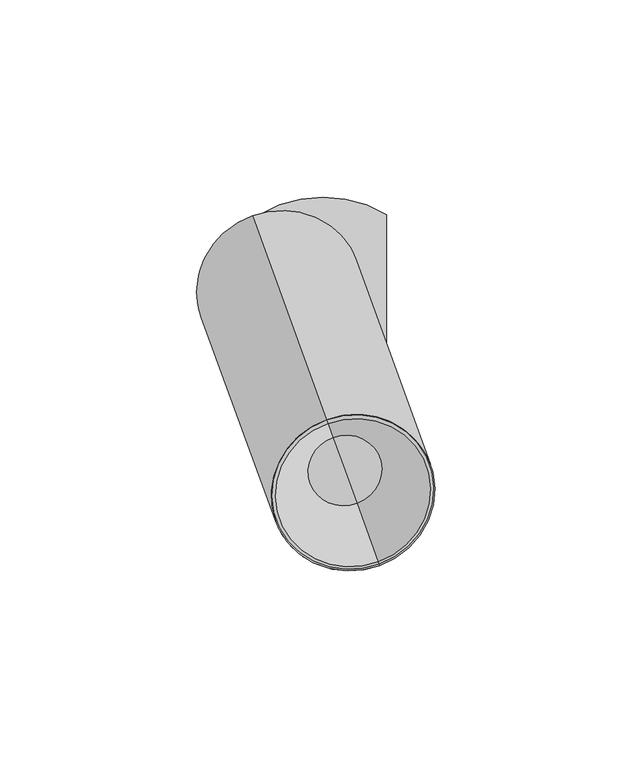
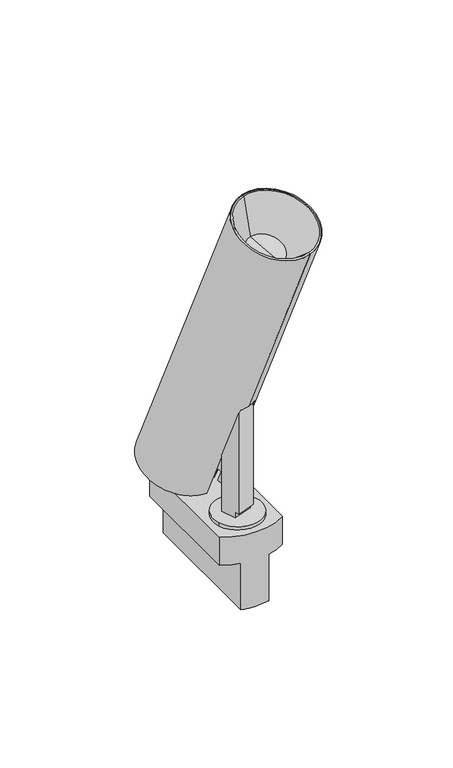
"""IFC4 building model written with IfcOpenShell, lengths in millimetres: light fixture geometry, PIPES T XS : 490lm 7,8W 930 38°."""

from ifc_helpers import new_model, si_unit, point, frame, frame_2d, origin, origin_2d, place, context, project, spatial, polyline, circle_curve, trimmed, segment, composite_curve, outline, extrude, source, transform, mapped, element, save
from ifc_brep_helpers import plane_surface, cylinder_surface, revolved_surface, advanced_brep


def light_fixture_19428bb1(model_context):
    return source(origin(), model_context, "Body", "SolidModel", [
        extrude(outline(composite_curve([segment(polyline([(39.7303383, 0.0), (39.7303383, -8.0), (36.7303383, -8.0), (36.7303383, -10.0), (-21.31827, -10.0), (-21.31827, -2.0000001)]), True, "CONTINUOUS"), segment(trimmed(circle_curve(frame_2d((-15.691322, -2.0000001)), 5.626948), [point((-21.31827, -2.0000001))], [point((-15.691322, 3.626948))], False, "CARTESIAN"), True, "CONTINUOUS"), segment(polyline([(-15.691322, 3.626948), (-9.8735653, 3.626948)]), True, "CONTINUOUS"), segment(trimmed(circle_curve(frame_2d((-17.7182036, -2.2388679)), 9.7952104), [point((-9.8735653, 3.626948))], [point((-8.1822916, 0.0))], False, "CARTESIAN"), True, "CONTINUOUS"), segment(polyline([(-8.1822916, 0.0), (39.7303383, 0.0)]), True, "CONTINUOUS")], self_intersect=False)), frame((-6.4085638, 2.9883624, 56.5303383), z_axis=(0.9396926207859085, 0.3420201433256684, 0.0), x_axis=(0.0, 0.0, -1.0)), (0.0, 0.0, 1.0), 10.0),
        extrude(outline(composite_curve([segment(trimmed(circle_curve(origin_2d(), 12.5), [point((11.7461578, 4.2752518))], [point((-11.7461578, -4.2752518))], False, "CARTESIAN"), True, "CONTINUOUS"), segment(trimmed(circle_curve(origin_2d(), 12.5), [point((-11.7461578, -4.2752518))], [point((11.7461578, 4.2752518))], False, "CARTESIAN"), True, "CONTINUOUS")], self_intersect=False)), frame((0.0, 0.0, 15.0), z_axis=(0.0, 0.0, 1.0), x_axis=(1.0, 0.0, 0.0)), (0.0, 0.0, 1.0), 1.8),
        advanced_brep(
        [(-7.1153658, -15.2862846, -25.0), (-7.1153658, 53.3498174, -25.0), (7.1153658, 53.3498174, -25.0), (7.1153658, -15.2862846, -25.0), (-16.1153658, 49.7317664, 15.0), (-16.1153658, -11.6682336, 15.0), (16.1153658, -11.6682336, 15.0), (16.1153658, 49.7317664, 15.0), (-16.1153658, 49.7317664, 0.0), (-16.1153658, -11.6682336, 0.0), (-7.1153658, -15.2862846, 0.0), (7.1153658, -15.2862846, 0.0), (16.1153658, -11.6682336, 0.0), (16.1153658, 49.7317664, 0.0), (7.1153658, 53.3498174, 0.0), (-7.1153658, 53.3498174, 0.0)],
        [
            (0, 1),
            (1, 2, circle_curve(frame((0.0, 22.6472542, -25.0), z_axis=(0.0, 0.0, -1.0), x_axis=(1.0, 0.0, 0.0)), 31.5162786)),
            (2, 3),
            (3, 0, circle_curve(frame((0.0, 15.4162786, -25.0), z_axis=(0.0, 0.0, -1.0), x_axis=(1.0, 0.0, 0.0)), 31.5162786)),
            (4, 5),
            (5, 6, circle_curve(frame((0.0, 15.4162786, 15.0), z_axis=(0.0, 0.0, 1.0), x_axis=(1.0, 0.0, 0.0)), 31.5162786)),
            (6, 7),
            (7, 4, circle_curve(frame((0.0, 22.6472542, 15.0), z_axis=(0.0, 0.0, 1.0), x_axis=(1.0, 0.0, 0.0)), 31.5162786)),
            (4, 8),
            (8, 9),
            (9, 5),
            (9, 10, circle_curve(frame((0.0, 15.4162786, 0.0), z_axis=(0.0, 0.0, 1.0), x_axis=(1.0, 0.0, 0.0)), 31.5162786)),
            (10, 0),
            (3, 11),
            (11, 12, circle_curve(frame((0.0, 15.4162786, 0.0), z_axis=(0.0, 0.0, 1.0), x_axis=(1.0, 0.0, 0.0)), 31.5162786)),
            (12, 6),
            (12, 13),
            (13, 7),
            (13, 14, circle_curve(frame((0.0, 22.6472542, 0.0), z_axis=(0.0, 0.0, 1.0), x_axis=(1.0, 0.0, 0.0)), 31.5162786)),
            (14, 2),
            (1, 15),
            (15, 8, circle_curve(frame((0.0, 22.6472542, 0.0), z_axis=(0.0, 0.0, 1.0), x_axis=(1.0, 0.0, 0.0)), 31.5162786)),
            (15, 10),
            (11, 14),
        ],
        [
            plane_surface(frame((-16.1153658, -11.6883244, -25.0), z_axis=(0.0, 0.0, -1.0), x_axis=(0.0, 1.0, 0.0))),
            plane_surface(frame((-16.1153658, -11.6883244, 15.0), z_axis=(0.0, 0.0, 1.0), x_axis=(0.0, -1.0, 0.0))),
            plane_surface(frame((-16.1153658, 49.7317664, 15.0), z_axis=(-1.0, 0.0, 0.0), x_axis=(0.0, 0.0, -1.0))),
            cylinder_surface(frame((0.0, 15.4162786, -25.0), z_axis=(0.0, 0.0, 1.0), x_axis=(1.0, 0.0, 0.0)), 31.5162786),
            plane_surface(frame((16.1153658, -11.6682336, 15.0), z_axis=(1.0, 0.0, 0.0), x_axis=(0.0, 0.0, -1.0))),
            cylinder_surface(frame((0.0, 22.6472542, -25.0), z_axis=(0.0, 0.0, 1.0), x_axis=(1.0, 0.0, 0.0)), 31.5162786),
            plane_surface(frame((-7.1153658, 58.6979838, 0.0), z_axis=(0.0, 0.0, -1.0), x_axis=(-1.0, 0.0, 0.0))),
            plane_surface(frame((-7.1153658, -21.3020162, 0.0), z_axis=(-1.0, 0.0, 0.0), x_axis=(0.0, 0.0, -1.0))),
            plane_surface(frame((7.1153658, -11.6883244, 0.0), z_axis=(0.0, 0.0, -1.0), x_axis=(0.0, -1.0, 0.0))),
            plane_surface(frame((7.1153658, 58.6979838, 0.0), z_axis=(1.0, 0.0, 0.0), x_axis=(0.0, 0.0, -1.0))),
        ],
        [
            (0, [[1, 2, 3, 4]]),
            (1, [[5, 6, 7, 8]]),
            (2, [[-5, 9, 10, 11]]),
            (3, [[-6, -11, 12, 13, -4, 14, 15, 16]]),
            (4, [[-7, -16, 17, 18]]),
            (5, [[-8, -18, 19, 20, -2, 21, 22, -9]]),
            (6, [[23, -12, -10, -22]]),
            (7, [[-23, -21, -1, -13]]),
            (8, [[24, -19, -17, -15]]),
            (9, [[-24, -14, -3, -20]]),
        ],
    ),
        advanced_brep(
        [(3.676383, 4.5182428, 79.4085638), (-2.2894837, 20.9093268, 31.4842402), (0.0664302, 14.4365066, 28.977129), (-0.6354365, 16.3648694, 23.3389732), (0.0284909, 14.540744, 22.6324365), (6.6962242, -3.7787029, 76.1949159), (-5.7205432, 1.0980414, 79.4085638), (-2.700702, -7.1989044, 76.1949159), (-9.3684353, 11.1205425, 22.6324365), (-10.0323627, 12.944668, 23.3389732), (-9.330496, 11.0163052, 28.977129), (-11.6864099, 17.4891254, 31.4842402), (-6.9879468, 19.1992261, 31.4842402), (2.1918579, -6.0220801, 75.9883624), (14.3575469, -39.4470358, 173.7163949), (0.8590071, -2.3601025, 188.081241), (-17.9744153, 49.3843, 36.790729), (-17.3316276, 47.6182556, 36.1066887), (-16.629761, 45.6898928, 41.7448445), (-10.5232787, 28.9124706, 35.2464617), (2.23025, -6.1275616, 166.9347059), (8.6581261, -23.788006, 160.094303), (5.4441881, -14.9577838, 163.5145045)],
        [
            (0, 1),
            (1, 2),
            (2, 3),
            (3, 4),
            (4, 5),
            (5, 0),
            (6, 7),
            (7, 8),
            (8, 9),
            (9, 10),
            (10, 11),
            (11, 6),
            (0, 6),
            (11, 12),
            (12, 1),
            (5, 13, circle_curve(frame((-4.557412, 12.5213865, 83.1707854), z_axis=(-0.11697777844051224, 0.32139380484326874, -0.9396926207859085), x_axis=(0.3213938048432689, -0.8830222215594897, -0.3420201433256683)), 21.0)),
            (13, 7, circle_curve(frame((-4.557412, 12.5213865, 83.1707854), z_axis=(-0.11697777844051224, 0.32139380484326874, -0.9396926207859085), x_axis=(0.3213938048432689, -0.8830222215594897, -0.3420201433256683)), 21.0)),
            (14, 15, circle_curve(frame((7.608277, -20.9035692, 180.898818), z_axis=(-0.11697777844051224, 0.32139380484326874, -0.9396926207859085), x_axis=(0.3213938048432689, -0.8830222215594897, -0.3420201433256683)), 21.0)),
            (15, 16),
            (16, 8, circle_curve(frame((-11.2251454, 30.8408334, 29.608306), z_axis=(0.11697777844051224, -0.32139380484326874, 0.9396926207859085), x_axis=(0.3213938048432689, -0.8830222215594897, -0.3420201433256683)), 21.0)),
            (13, 14),
            (15, 14, circle_curve(frame((7.608277, -20.9035692, 180.898818), z_axis=(-0.11697777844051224, 0.32139380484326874, -0.9396926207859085), x_axis=(0.3213938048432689, -0.8830222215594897, -0.3420201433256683)), 21.0)),
            (4, 16, circle_curve(frame((-11.2251454, 30.8408334, 29.608306), z_axis=(0.11697777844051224, -0.32139380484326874, 0.9396926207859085), x_axis=(0.3213938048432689, -0.8830222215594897, -0.3420201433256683)), 21.0)),
            (16, 17),
            (17, 9, circle_curve(frame((-11.2251454, 30.8408334, 29.608306), z_axis=(0.11697777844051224, -0.32139380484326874, 0.9396926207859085), x_axis=(0.3213938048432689, -0.8830222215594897, -0.3420201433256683)), 19.0)),
            (3, 17, circle_curve(frame((-11.2251454, 30.8408334, 29.608306), z_axis=(0.11697777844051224, -0.32139380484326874, 0.9396926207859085), x_axis=(0.3213938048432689, -0.8830222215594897, -0.3420201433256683)), 19.0)),
            (17, 18),
            (18, 10, circle_curve(frame((-10.5232787, 28.9124706, 35.2464617), z_axis=(0.11697777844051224, -0.32139380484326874, 0.9396926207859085), x_axis=(0.3213938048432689, -0.8830222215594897, -0.3420201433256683)), 19.0)),
            (2, 18, circle_curve(frame((-10.5232787, 28.9124706, 35.2464617), z_axis=(0.11697777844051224, -0.32139380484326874, 0.9396926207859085), x_axis=(0.3213938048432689, -0.8830222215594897, -0.3420201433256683)), 19.0)),
            (18, 19),
            (19, 12),
            (20, 21, circle_curve(frame((5.4441881, -14.9577838, 163.5145045), z_axis=(0.11697777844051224, -0.32139380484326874, 0.9396926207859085), x_axis=(0.3213938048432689, -0.8830222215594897, -0.3420201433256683)), 10.0)),
            (21, 22),
            (22, 20),
            (21, 20, circle_curve(frame((5.4441881, -14.9577838, 163.5145045), z_axis=(0.11697777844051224, -0.32139380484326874, 0.9396926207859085), x_axis=(0.3213938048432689, -0.8830222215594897, -0.3420201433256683)), 10.0)),
            (14, 21),
            (20, 15),
        ],
        [
            plane_surface(frame((3.676383, 4.5182428, 79.4085638), z_axis=(-0.9396926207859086, -0.3420201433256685, 0.0), x_axis=(0.11697777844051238, -0.32139380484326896, 0.9396926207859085))),
            plane_surface(frame((-5.7205432, 1.0980414, 79.4085638), z_axis=(0.9396926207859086, 0.3420201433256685, 0.0), x_axis=(-0.11697777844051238, 0.32139380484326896, -0.9396926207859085))),
            plane_surface(frame((-5.7205432, 1.0980414, 79.4085638), z_axis=(0.32139380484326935, -0.8830222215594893, -0.3420201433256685), x_axis=(0.9396926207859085, 0.3420201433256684, 0.0))),
            plane_surface(frame((0.7073329, -16.5624031, 72.568161), z_axis=(-0.11697777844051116, 0.32139380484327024, -0.9396926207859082), x_axis=(0.9396926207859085, 0.3420201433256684, 0.0))),
            cylinder_surface(frame((-12.2138861, 33.5573763, 21.665666), z_axis=(-0.11697777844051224, 0.32139380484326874, -0.9396926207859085), x_axis=(0.3213938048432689, -0.8830222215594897, -0.3420201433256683)), 21.0),
            plane_surface(frame((-11.2251454, 30.8408334, 29.608306), z_axis=(-0.11697777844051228, 0.32139380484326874, -0.9396926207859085), x_axis=(0.32139380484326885, -0.8830222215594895, -0.34202014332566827))),
            revolved_surface(polyline([(-5.118663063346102, 14.063411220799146, 23.10992327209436), (-4.416796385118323, 12.135048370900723, 28.748079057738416)]), (-12.2138861, 33.5573763, 21.665666), (-0.11697777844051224, 0.32139380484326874, -0.9396926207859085)),
            revolved_surface(polyline([(-5.118663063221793, 14.06341122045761, 23.109923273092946), (-4.416796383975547, 12.135048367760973, 28.74807906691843)]), (-12.2138861, 33.5573763, 21.665666), (-0.11697777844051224, 0.32139380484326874, -0.9396926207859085)),
            plane_surface(frame((-10.5232787, 28.9124706, 35.2464617), z_axis=(-0.11697777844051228, 0.32139380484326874, -0.9396926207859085), x_axis=(0.32139380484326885, -0.8830222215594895, -0.34202014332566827))),
            plane_surface(frame((5.4441881, -14.9577838, 163.5145045), z_axis=(0.11697777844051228, -0.32139380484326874, 0.9396926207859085), x_axis=(0.32139380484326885, -0.8830222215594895, -0.34202014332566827))),
            revolved_surface(polyline([(8.6581261, -23.788006, 160.094303), (14.3575469, -39.4470358, 173.7163949)]), (-12.2138861, 33.5573763, 21.665666), (-0.11697777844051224, 0.32139380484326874, -0.9396926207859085)),
        ],
        [
            (0, [[1, 2, 3, 4, 5, 6]]),
            (1, [[7, 8, 9, 10, 11, 12]]),
            (2, [[13, -12, 14, 15, -1]]),
            (3, [[-13, -6, 16, 17, -7]]),
            (4, [[18, 19, 20, -8, -17, 21]]),
            (4, [[-19, 22, -21, -16, -5, 23]]),
            (5, [[24, 25, -9, -20]]),
            (5, [[-24, -23, -4, 26]]),
            (6, [[27, 28, -10, -25]]),
            (7, [[-27, -26, -3, 29]]),
            (8, [[30, 31, -14, -11, -28]]),
            (8, [[-30, -29, -2, -15, -31]]),
            (9, [[32, 33, 34]]),
            (9, [[-33, 35, -34]]),
            (10, [[-18, 36, -32, 37]]),
            (10, [[-22, -37, -35, -36]]),
        ],
    ),
        advanced_brep(
        [(-2.7573948, 22.1949021, 27.7254697), (-2.9913504, 22.8376897, 25.8460844), (-1.3067886, 18.2093941, 24.0534112), (-1.072833, 17.5666065, 25.9327964), (-12.3882766, 19.4174882, 25.8460844), (-12.1543211, 18.7747006, 27.7254697), (-10.4697592, 14.1464051, 25.9327964), (-10.7037148, 14.7891927, 24.0534112), (-7.4558579, 20.4848013, 27.7254697), (-7.6898135, 21.127589, 25.8460844), (-10.9911898, 30.1980458, 31.4876913), (-16.4528415, 45.2038105, 37.2998596), (-16.6867971, 45.8465981, 35.4204744), (-11.2251454, 30.8408334, 29.608306)],
        [
            (0, 1),
            (1, 2),
            (2, 3),
            (3, 0),
            (4, 5),
            (5, 6),
            (6, 7),
            (7, 4),
            (0, 8),
            (8, 5),
            (4, 9),
            (9, 1),
            (10, 11),
            (11, 6, circle_curve(frame((-10.9911898, 30.1980458, 31.4876913), z_axis=(0.1169777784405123, -0.3213938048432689, 0.9396926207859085), x_axis=(0.3213938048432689, -0.8830222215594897, -0.3420201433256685)), 16.9936434)),
            (8, 10),
            (3, 11, circle_curve(frame((-10.9911898, 30.1980458, 31.4876913), z_axis=(0.1169777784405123, -0.3213938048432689, 0.9396926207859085), x_axis=(0.3213938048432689, -0.8830222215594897, -0.3420201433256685)), 16.9936434)),
            (11, 12),
            (12, 7, circle_curve(frame((-11.2251454, 30.8408334, 29.608306), z_axis=(0.1169777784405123, -0.3213938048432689, 0.9396926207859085), x_axis=(0.3213938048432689, -0.8830222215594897, -0.3420201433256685)), 16.9936434)),
            (2, 12, circle_curve(frame((-11.2251454, 30.8408334, 29.608306), z_axis=(0.1169777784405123, -0.3213938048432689, 0.9396926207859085), x_axis=(0.3213938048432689, -0.8830222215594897, -0.3420201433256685)), 16.9936434)),
            (12, 13),
            (13, 9),
        ],
        [
            plane_surface(frame((3.676383, 4.5182428, 79.4085638), z_axis=(-0.9396926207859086, -0.3420201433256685, 0.0), x_axis=(0.11697777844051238, -0.32139380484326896, 0.9396926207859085))),
            plane_surface(frame((-5.7205432, 1.0980414, 79.4085638), z_axis=(0.9396926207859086, 0.3420201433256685, 0.0), x_axis=(-0.11697777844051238, 0.32139380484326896, -0.9396926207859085))),
            plane_surface(frame((-5.7205432, 1.0980414, 79.4085638), z_axis=(0.32139380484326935, -0.8830222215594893, -0.3420201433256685), x_axis=(0.9396926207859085, 0.3420201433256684, 0.0))),
            plane_surface(frame((-10.9911898, 30.1980458, 31.4876913), z_axis=(0.11697777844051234, -0.3213938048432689, 0.9396926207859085), x_axis=(0.32139380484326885, -0.8830222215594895, -0.34202014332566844))),
            cylinder_surface(frame((4.2214918, -11.5984533, 153.6924792), z_axis=(-0.1169777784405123, 0.3213938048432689, -0.9396926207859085), x_axis=(0.3213938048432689, -0.8830222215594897, -0.3420201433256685)), 16.9936434),
            plane_surface(frame((-11.2251454, 30.8408334, 29.608306), z_axis=(-0.11697777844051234, 0.3213938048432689, -0.9396926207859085), x_axis=(0.32139380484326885, -0.8830222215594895, -0.34202014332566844))),
        ],
        [
            (0, [[1, 2, 3, 4]]),
            (1, [[5, 6, 7, 8]]),
            (2, [[-1, 9, 10, -5, 11, 12]]),
            (3, [[13, 14, -6, -10, 15]]),
            (3, [[-13, -15, -9, -4, 16]]),
            (4, [[17, 18, -7, -14]]),
            (4, [[-17, -16, -3, 19]]),
            (5, [[20, 21, -11, -8, -18]]),
            (5, [[-20, -19, -2, -12, -21]]),
        ],
    ),
        advanced_brep(
        [(2.5300443, -6.9512396, 167.6798493), (8.5922874, -23.6071156, 161.2285449), (5.5611658, -15.2791776, 164.4541971), (1.2329226, -3.387427, 187.6833284), (13.9836314, -38.4197114, 174.1143075), (0.8590071, -2.3601025, 188.081241), (14.3575469, -39.4470358, 173.7163949), (2.23025, -6.1275616, 166.9347059), (8.6581261, -23.788006, 160.094303), (5.4441881, -14.9577838, 163.5145045)],
        [
            (0, 1, circle_curve(frame((5.5611658, -15.2791776, 164.4541971), z_axis=(0.11697777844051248, -0.32139380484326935, 0.9396926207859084), x_axis=(0.3213938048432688, -0.8830222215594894, -0.34202014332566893)), 9.431176)),
            (1, 2),
            (2, 0),
            (1, 0, circle_curve(frame((5.5611658, -15.2791776, 164.4541971), z_axis=(0.11697777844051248, -0.32139380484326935, 0.9396926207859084), x_axis=(0.3213938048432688, -0.8830222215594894, -0.34202014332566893)), 9.431176)),
            (3, 4, circle_curve(frame((7.608277, -20.9035692, 180.898818), z_axis=(0.11697777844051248, -0.32139380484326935, 0.9396926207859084), x_axis=(0.3213938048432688, -0.8830222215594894, -0.34202014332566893)), 19.8365814)),
            (4, 1),
            (0, 3),
            (4, 3, circle_curve(frame((7.608277, -20.9035692, 180.898818), z_axis=(0.11697777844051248, -0.32139380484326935, 0.9396926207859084), x_axis=(0.3213938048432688, -0.8830222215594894, -0.34202014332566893)), 19.8365814)),
            (5, 6, circle_curve(frame((7.608277, -20.9035692, 180.898818), z_axis=(0.11697777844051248, -0.32139380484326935, 0.9396926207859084), x_axis=(0.3213938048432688, -0.8830222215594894, -0.34202014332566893)), 21.0)),
            (6, 4),
            (3, 5),
            (6, 5, circle_curve(frame((7.608277, -20.9035692, 180.898818), z_axis=(0.11697777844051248, -0.32139380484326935, 0.9396926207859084), x_axis=(0.3213938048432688, -0.8830222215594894, -0.34202014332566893)), 21.0)),
            (7, 8, circle_curve(frame((5.4441881, -14.9577838, 163.5145045), z_axis=(0.11697777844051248, -0.32139380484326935, 0.9396926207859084), x_axis=(0.3213938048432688, -0.8830222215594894, -0.34202014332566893)), 10.0)),
            (8, 6),
            (5, 7),
            (8, 7, circle_curve(frame((5.4441881, -14.9577838, 163.5145045), z_axis=(0.11697777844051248, -0.32139380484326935, 0.9396926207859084), x_axis=(0.3213938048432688, -0.8830222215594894, -0.34202014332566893)), 10.0)),
            (9, 8),
            (7, 9),
        ],
        [
            plane_surface(frame((5.5611658, -15.2791776, 164.4541971), z_axis=(0.1169777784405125, -0.32139380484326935, 0.9396926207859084), x_axis=(0.3213938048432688, -0.8830222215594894, -0.34202014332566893))),
            revolved_surface(polyline([(8.5922874, -23.6071156, 161.2285449), (13.9836314, -38.4197114, 174.1143075)]), (-14.5534417, 39.9852524, 2.8718136), (-0.11697777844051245, 0.3213938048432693, -0.9396926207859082)),
            plane_surface(frame((7.608277, -20.9035692, 180.898818), z_axis=(0.1169777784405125, -0.32139380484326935, 0.9396926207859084), x_axis=(0.3213938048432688, -0.8830222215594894, -0.34202014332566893))),
            revolved_surface(polyline([(14.3575469, -39.4470358, 173.7163949), (8.6581261, -23.788006, 160.094303)]), (-14.5534417, 39.9852524, 2.8718136), (-0.11697777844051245, 0.3213938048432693, -0.9396926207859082)),
            plane_surface(frame((5.4441881, -14.9577838, 163.5145045), z_axis=(-0.1169777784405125, 0.32139380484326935, -0.9396926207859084), x_axis=(0.3213938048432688, -0.8830222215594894, -0.34202014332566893))),
        ],
        [
            (0, [[1, 2, 3]]),
            (0, [[4, -3, -2]]),
            (1, [[5, 6, -1, 7]]),
            (1, [[8, -7, -4, -6]]),
            (2, [[9, 10, -5, 11]]),
            (2, [[12, -11, -8, -10]]),
            (3, [[13, 14, -9, 15]]),
            (3, [[16, -15, -12, -14]]),
            (4, [[17, -13, 18]]),
            (4, [[-18, -16, -17]]),
        ],
    ),
    ])


if __name__ == "__main__":
    model = new_model("IFC4")
    model_context = context("Model", 3, world=origin())
    ifc_project = project(units=[si_unit("LENGTHUNIT", "METRE", prefix="MILLI")], contexts=[model_context])
    site = spatial("IfcSite", under=ifc_project)
    building = spatial("IfcBuilding", under=site)
    placement = place(None, origin())
    light_fixture_shape = light_fixture_19428bb1(model_context)
    element("IfcLightFixture", 1, ObjectType="PIPES T XS : 490lm 7,8W 930 38°", at=placement, inside=building, context=model_context, shape_type="MappedRepresentation", body=[
        mapped(light_fixture_shape, transform((0.0, 0.0, 0.0), x_axis=(1.0, 0.0, 0.0), y_axis=(0.0, 1.0, 0.0), z_axis=(0.0, 0.0, 1.0))),
    ])
    save(model, "model.ifc")
